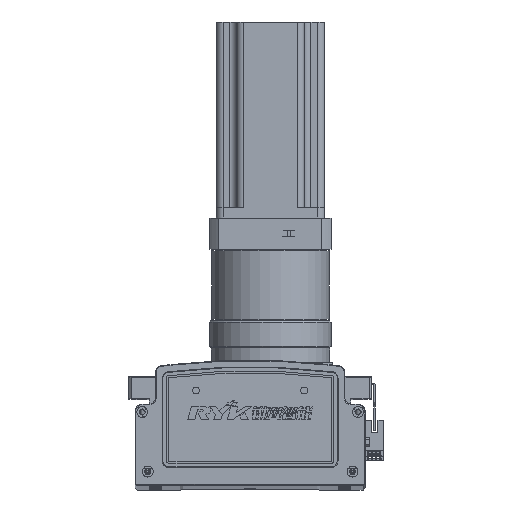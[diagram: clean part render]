
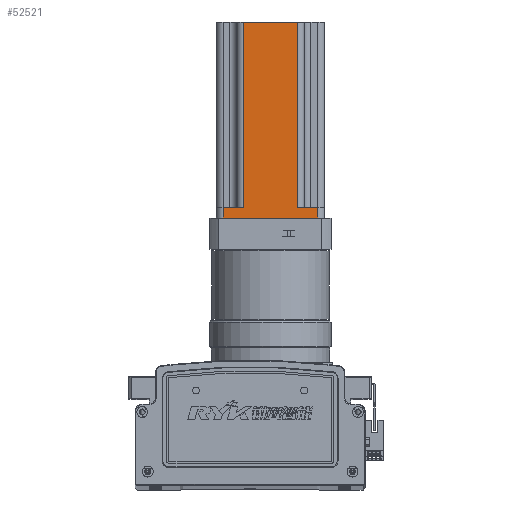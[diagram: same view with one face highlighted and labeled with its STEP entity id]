
A CAD part, top view. The second image highlights one B-rep face of the part: STEP entity #52521.
In plain terms, the highlighted planar face has unit normal (0, 0, 1) as drawn and (0, -1, 0) by its records, which use the part's own axes.
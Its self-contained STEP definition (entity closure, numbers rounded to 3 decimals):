
#3782 = CARTESIAN_POINT ( 'NONE',  ( -87.587, -40.37, 145. ) ) ;
#3797 = PLANE ( 'NONE',  #36392 ) ;
#3817 = DIRECTION ( 'NONE',  ( 0., 1., 0. ) ) ;
#3822 = DIRECTION ( 'NONE',  ( -1., 0., 0. ) ) ;
#10188 = FACE_OUTER_BOUND ( 'NONE', #16291, .T. ) ;
#16291 = EDGE_LOOP ( 'NONE', ( #41386, #41396, #41403, #41404, #41422, #41399, #46045, #46053 ) ) ;
#36392 = AXIS2_PLACEMENT_3D ( 'NONE', #3782, #3817, #3822 ) ;
#41386 = ORIENTED_EDGE ( 'NONE', *, *, #42481, .F. ) ;
#41396 = ORIENTED_EDGE ( 'NONE', *, *, #42436, .T. ) ;
#41399 = ORIENTED_EDGE ( 'NONE', *, *, #42479, .T. ) ;
#41403 = ORIENTED_EDGE ( 'NONE', *, *, #42307, .T. ) ;
#41404 = ORIENTED_EDGE ( 'NONE', *, *, #42421, .T. ) ;
#41422 = ORIENTED_EDGE ( 'NONE', *, *, #42487, .F. ) ;
#42307 = EDGE_CURVE ( 'NONE', #62229, #62272, #47927, .T. ) ;
#42421 = EDGE_CURVE ( 'NONE', #62272, #62248, #48219, .T. ) ;
#42436 = EDGE_CURVE ( 'NONE', #62236, #62229, #48294, .T. ) ;
#42466 = EDGE_CURVE ( 'NONE', #62186, #62251, #48212, .T. ) ;
#42479 = EDGE_CURVE ( 'NONE', #62250, #62224, #48374, .T. ) ;
#42481 = EDGE_CURVE ( 'NONE', #62236, #62251, #48399, .T. ) ;
#42483 = EDGE_CURVE ( 'NONE', #62186, #62224, #48475, .T. ) ;
#42487 = EDGE_CURVE ( 'NONE', #62250, #62248, #48311, .T. ) ;
#44411 = DIRECTION ( 'NONE',  ( 1., 0., 0. ) ) ;
#44419 = CARTESIAN_POINT ( 'NONE',  ( -87.587, -40.37, 0. ) ) ;
#44584 = CARTESIAN_POINT ( 'NONE',  ( -12.587, -40.37, 145. ) ) ;
#44602 = DIRECTION ( 'NONE',  ( 0., 0., 1. ) ) ;
#44634 = CARTESIAN_POINT ( 'NONE',  ( -67.587, -40.37, 145. ) ) ;
#44644 = CARTESIAN_POINT ( 'NONE',  ( -82.587, -40.37, 145. ) ) ;
#44649 = DIRECTION ( 'NONE',  ( 0., 0., -1. ) ) ;
#44663 = DIRECTION ( 'NONE',  ( 1., 0., 0. ) ) ;
#44669 = DIRECTION ( 'NONE',  ( 0., 0., -1. ) ) ;
#44671 = DIRECTION ( 'NONE',  ( 1., 0., 0. ) ) ;
#44675 = DIRECTION ( 'NONE',  ( 0., 0., 1. ) ) ;
#44678 = CARTESIAN_POINT ( 'NONE',  ( -27.587, -40.37, 145. ) ) ;
#44679 = DIRECTION ( 'NONE',  ( 1., 0., 0. ) ) ;
#44690 = CARTESIAN_POINT ( 'NONE',  ( -87.587, -40.37, 145. ) ) ;
#44691 = CARTESIAN_POINT ( 'NONE',  ( -7.587, -40.37, 8. ) ) ;
#44693 = CARTESIAN_POINT ( 'NONE',  ( -87.587, -40.37, 8. ) ) ;
#46045 = ORIENTED_EDGE ( 'NONE', *, *, #42483, .F. ) ;
#46053 = ORIENTED_EDGE ( 'NONE', *, *, #42466, .T. ) ;
#47927 = LINE ( 'NONE', #44419, #47936 ) ;
#47936 = VECTOR ( 'NONE', #44411, 1000. ) ;
#48134 = VECTOR ( 'NONE', #44602, 1000. ) ;
#48184 = VECTOR ( 'NONE', #44649, 1000. ) ;
#48202 = VECTOR ( 'NONE', #44669, 1000. ) ;
#48212 = LINE ( 'NONE', #44634, #48202 ) ;
#48219 = LINE ( 'NONE', #44584, #48134 ) ;
#48294 = LINE ( 'NONE', #44644, #48184 ) ;
#48308 = VECTOR ( 'NONE', #44679, 1000. ) ;
#48311 = LINE ( 'NONE', #44691, #48451 ) ;
#48328 = VECTOR ( 'NONE', #44663, 1000. ) ;
#48374 = LINE ( 'NONE', #44678, #48394 ) ;
#48394 = VECTOR ( 'NONE', #44675, 1000. ) ;
#48399 = LINE ( 'NONE', #44693, #48328 ) ;
#48451 = VECTOR ( 'NONE', #44671, 1000. ) ;
#48475 = LINE ( 'NONE', #44690, #48308 ) ;
#52521 = ADVANCED_FACE ( 'NONE', ( #10188 ), #3797, .F. ) ;
#62186 = VERTEX_POINT ( 'NONE', #69619 ) ;
#62224 = VERTEX_POINT ( 'NONE', #69593 ) ;
#62229 = VERTEX_POINT ( 'NONE', #69630 ) ;
#62236 = VERTEX_POINT ( 'NONE', #69638 ) ;
#62248 = VERTEX_POINT ( 'NONE', #69663 ) ;
#62250 = VERTEX_POINT ( 'NONE', #69658 ) ;
#62251 = VERTEX_POINT ( 'NONE', #69667 ) ;
#62272 = VERTEX_POINT ( 'NONE', #69670 ) ;
#69593 = CARTESIAN_POINT ( 'NONE',  ( -27.587, -40.37, 145. ) ) ;
#69619 = CARTESIAN_POINT ( 'NONE',  ( -67.587, -40.37, 145. ) ) ;
#69630 = CARTESIAN_POINT ( 'NONE',  ( -82.587, -40.37, 0. ) ) ;
#69638 = CARTESIAN_POINT ( 'NONE',  ( -82.587, -40.37, 8. ) ) ;
#69658 = CARTESIAN_POINT ( 'NONE',  ( -27.587, -40.37, 8. ) ) ;
#69663 = CARTESIAN_POINT ( 'NONE',  ( -12.587, -40.37, 8. ) ) ;
#69667 = CARTESIAN_POINT ( 'NONE',  ( -67.587, -40.37, 8. ) ) ;
#69670 = CARTESIAN_POINT ( 'NONE',  ( -12.587, -40.37, 0. ) ) ;
